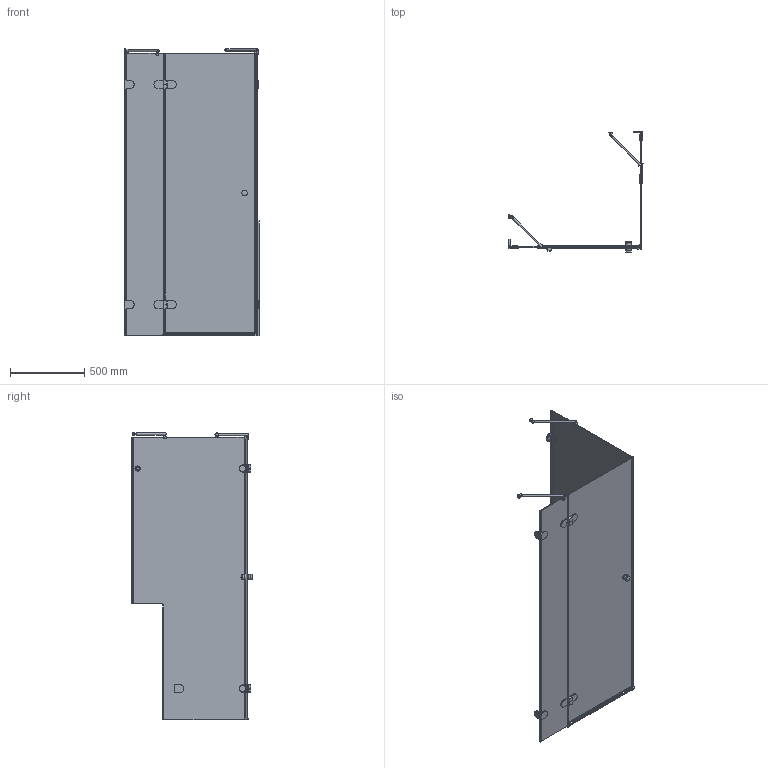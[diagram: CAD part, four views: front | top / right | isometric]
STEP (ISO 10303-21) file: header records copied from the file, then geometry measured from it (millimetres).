
FILE_DESCRIPTION(/* description */ (''),/* implementation_level */ '2;1');
FILE_NAME(/* name */ 'E:\Работа\Сергей\Душевые кабинки\! Работа\LUX SQUARE GK-003GC-2522V\LUX SQUARE GK-003GC-2522V левая модель\LUX SQUARE GK-003GC-2522V ЛЕВАЯ-3D.stp',/* time_stamp */ '2017-06-03T18:38:29+03:00',/* author */ ('PC'),/* organization */ (''),/* preprocessor_version */ 'ST-DEVELOPER v15.2',/* originating_system */ 'Autodesk Inventor 2014',/* authorisation */ '');
FILE_SCHEMA (('AUTOMOTIVE_DESIGN { 1 0 10303 214 3 1 1 }'));
Length unit declared in the file: millimetre
Products named in the file (1): LUX SQUARE GK-003GC-2522V ЛЕВАЯ-
3D
Bounding box: 905.6 x 818 x 1935.99 mm (x, y, z)
Volume: 18906617.5 mm3; surface area: 6483047.9 mm2
Topology: 5 solids, 5 shells, 732 faces, 1846 edges, 1159 vertices
Faces by surface type: plane 500, cylinder 185, torus 21, bspline 12, sphere 11, cone 3
Full cylindrical faces by diameter (mm): 12 x2, 15 x2, 20 x4, 26 x2, 30 x3, 35 x3, 38 x4, 40 x3
Entity records: 22777 total; most frequent: CARTESIAN_POINT 4571, DIRECTION 3597, ORIENTED_EDGE 3562, EDGE_CURVE 1781, LINE 1277, VECTOR 1277, AXIS2_PLACEMENT_3D 1160, VERTEX_POINT 1136
